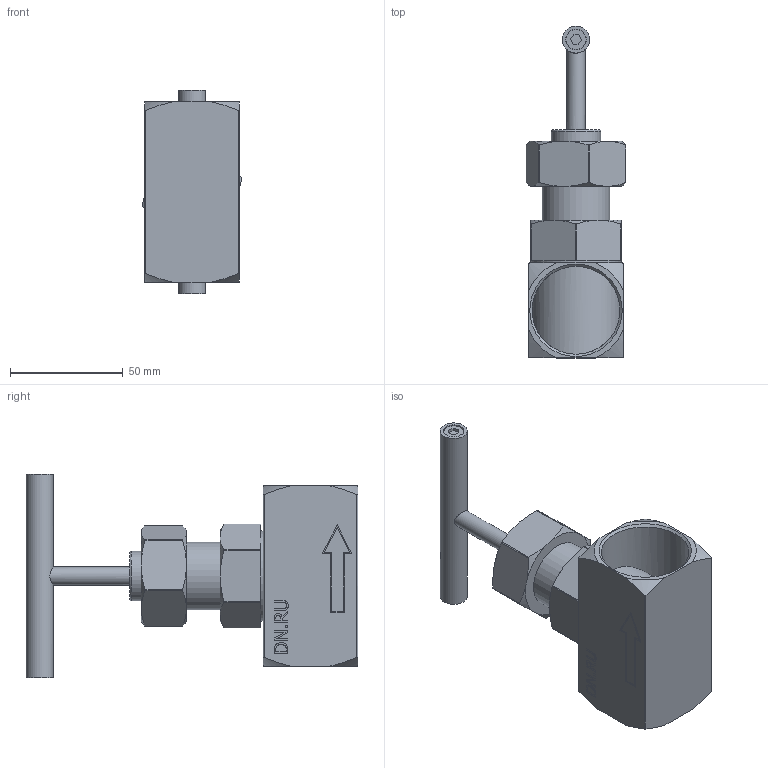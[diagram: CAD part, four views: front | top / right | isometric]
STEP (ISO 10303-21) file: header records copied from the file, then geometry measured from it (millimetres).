
FILE_DESCRIPTION(('STEP AP214'), '1');
FILE_NAME('VN3232M-T-Ht 孰囡囗 桡铍囹 DN.ru 捏32 畜400', '', ('UNSPECIFIED'), ('UNSPECIFIED'), 'C3D Converter', 'C3D Toolkit', '');
FILE_SCHEMA(('AUTOMOTIVE_DESIGN { 1 0 10303 214 3 1 1}'));
Length unit declared in the file: millimetre
Products named in the file (1): VN3232M-T-Ht
Bounding box: 44.32 x 147 x 90 mm (x, y, z)
Volume: 164016.2 mm3; surface area: 36675 mm2
Topology: 1 solids, 1 shells, 189 faces, 487 edges, 323 vertices
Faces by surface type: plane 108, cylinder 29, cone 28, bspline 23, torus 1
Full cylindrical faces by diameter (mm): 8 x1, 8.866 x2, 9.066 x2, 12 x1, 22 x1, 30 x1, 38.953 x2, 40 x1
Entity records: 13308 total; most frequent: CARTESIAN_POINT 7388, ORIENTED_EDGE 946, DIRECTION 738, EDGE_CURVE 473, VERTEX_POINT 323, LINE 282, VECTOR 282, AXIS2_PLACEMENT_3D 228
